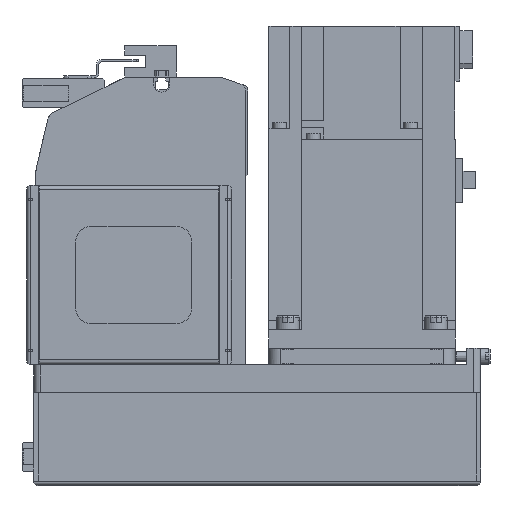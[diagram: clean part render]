
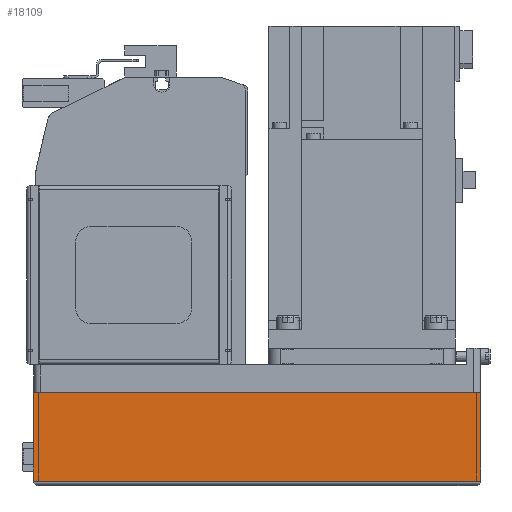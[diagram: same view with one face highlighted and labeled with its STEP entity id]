
A CAD part, left-side view. The second image highlights one B-rep face of the part: STEP entity #18109.
In plain terms, the highlighted planar face has unit normal (-1, 0, 0) as drawn and (0, 1, 0) by its records, which use the part's own axes.
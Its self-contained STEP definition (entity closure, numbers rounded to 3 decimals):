
#2826=ORIENTED_EDGE('',*,*,#7317,.F.);
#2827=ORIENTED_EDGE('',*,*,#7357,.F.);
#2828=ORIENTED_EDGE('',*,*,#7294,.T.);
#2829=ORIENTED_EDGE('',*,*,#7307,.T.);
#7294=EDGE_CURVE('',#9703,#9706,#11562,.T.);
#7307=EDGE_CURVE('',#9706,#9718,#11575,.T.);
#7317=EDGE_CURVE('',#9726,#9718,#11585,.T.);
#7357=EDGE_CURVE('',#9703,#9726,#11603,.T.);
#9703=VERTEX_POINT('',#27810);
#9706=VERTEX_POINT('',#27815);
#9718=VERTEX_POINT('',#27843);
#9726=VERTEX_POINT('',#27863);
#11562=LINE('',#27816,#13218);
#11575=LINE('',#27844,#13231);
#11585=LINE('',#27864,#13241);
#11603=LINE('',#27934,#13259);
#13218=VECTOR('',#22254,1000.);
#13231=VECTOR('',#22273,1000.);
#13241=VECTOR('',#22287,1000.);
#13259=VECTOR('',#22381,1000.);
#14731=EDGE_LOOP('',(#2826,#2827,#2828,#2829));
#16133=FACE_BOUND('',#14731,.T.);
#17368=PLANE('',#19416);
#18109=ADVANCED_FACE('',(#16133),#17368,.T.);
#19416=AXIS2_PLACEMENT_3D('',#27933,#22379,#22380);
#22254=DIRECTION('',(0.,0.,1.));
#22273=DIRECTION('',(1.,0.,0.));
#22287=DIRECTION('',(0.,0.,1.));
#22379=DIRECTION('',(0.,1.,0.));
#22380=DIRECTION('',(0.,0.,1.));
#22381=DIRECTION('',(1.,0.,0.));
#27810=CARTESIAN_POINT('',(-192.,40.,-50.));
#27815=CARTESIAN_POINT('',(-192.,40.,-12.1));
#27816=CARTESIAN_POINT('',(-192.,40.,-50.));
#27843=CARTESIAN_POINT('',(0.,40.,-12.1));
#27844=CARTESIAN_POINT('',(-192.,40.,-12.1));
#27863=CARTESIAN_POINT('',(0.,40.,-50.));
#27864=CARTESIAN_POINT('',(0.,40.,-50.));
#27933=CARTESIAN_POINT('',(-192.,40.,-50.));
#27934=CARTESIAN_POINT('',(-192.,40.,-50.));
